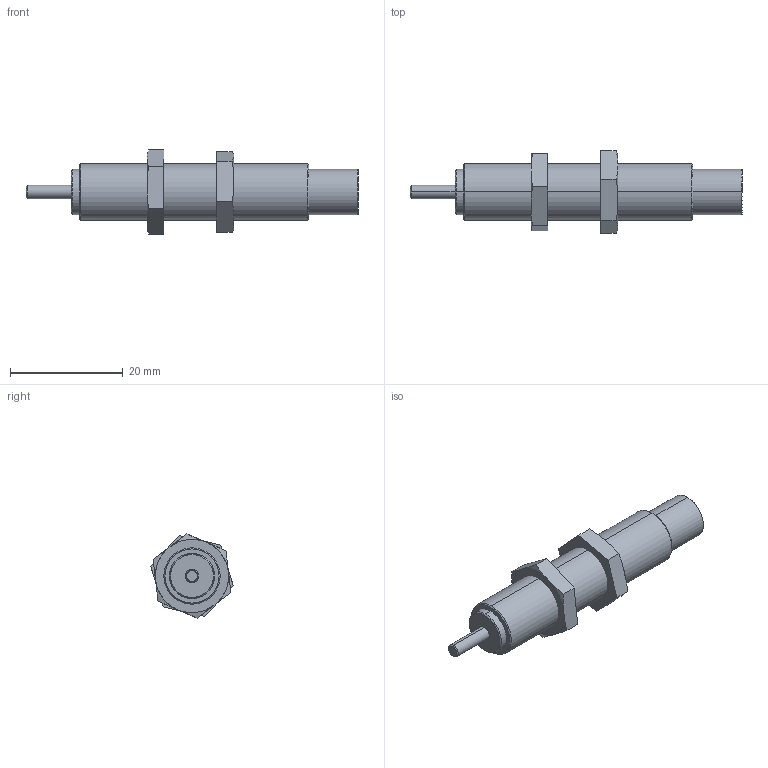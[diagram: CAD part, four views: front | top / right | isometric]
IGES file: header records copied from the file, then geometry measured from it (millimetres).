
Start section: SolidWorks IGES file using analytic representation for surfaces
Global section: file name: C:\Users\Sam Lin\Desktop\48\FSA-1008BB(CC)(CD).IGS; native system: SolidWorks 2013; preprocessor: SolidWorks 2013; author: Sam Lin; date: 160317.153327; units: metre
Bounding box: 58.9 x 14.63 x 14.91 mm (x, y, z)
Surface area: 2504.8 mm2 (no closed solid volume)
Topology: 0 solids, 0 shells, 53 faces, 812 edges, 812 vertices
Faces by surface type: bspline 33, revolution 20
